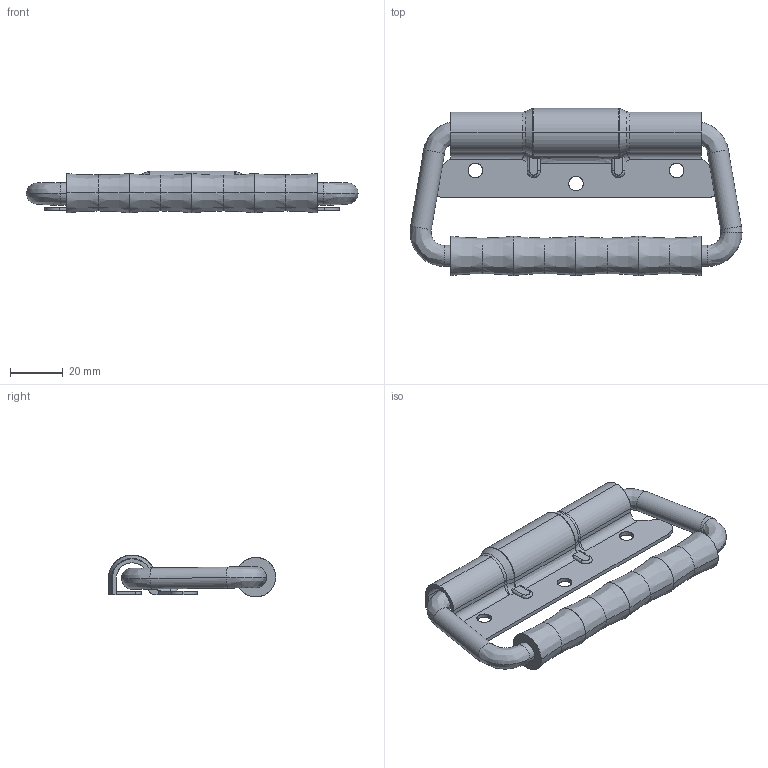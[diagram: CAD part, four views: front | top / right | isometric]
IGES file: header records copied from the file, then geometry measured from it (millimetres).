
Start section: SolidWorks IGES FILE using analytic representation for surfaces
Global section: file name: C:\Documents and Settings\lecoutey\Bureau\PR 312\PR 312.IGS; native system: SolidWorks 2004 by SolidWorks Corporation; preprocessor: Version 5.3; author: lecoutey; date: 050408.145231; units: millimetre
Bounding box: 126 x 63.5 x 15.9 mm (x, y, z)
Surface area: 20813.3 mm2 (no closed solid volume)
Topology: 0 solids, 0 shells, 165 faces, 1579 edges, 1577 vertices
Faces by surface type: bspline 96, revolution 69
